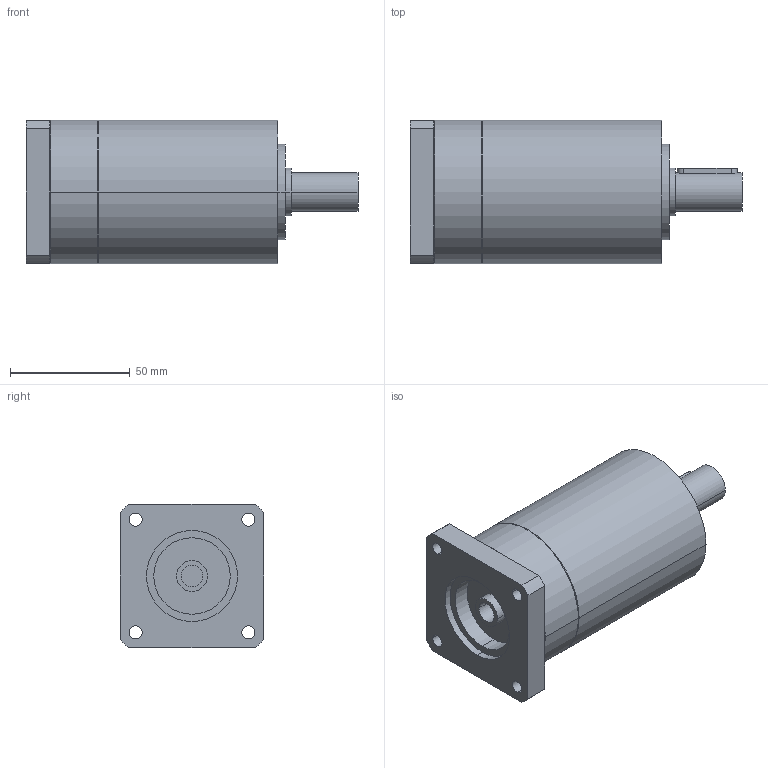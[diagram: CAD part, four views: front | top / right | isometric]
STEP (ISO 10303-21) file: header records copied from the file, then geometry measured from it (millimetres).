
FILE_DESCRIPTION(('CoCreate Modeling STEP Export'),'2;1');
FILE_NAME('GPR75_ig-9-12-16-20-24-30-36_16_B14_9_P02.stp','2014-08-25T16:07:11',(''),(''),'CoCreate Modeling STEP processor for AP214 (Solid Model)','CoCreate Modeling 16.00C 25-Feb-2009 (C) Parametric Technology GmbH','');
FILE_SCHEMA(('AUTOMOTIVE_DESIGN { 1 0 10303 214 1 1 1 1 }'));
Length unit declared in the file: millimetre
Products named in the file (2): GPR75_ig-9-12-16-20-24-30-36_16_B14_9_P02
Assembly tree (1 placements, depth 2):
  GPR75_ig-9-12-16-20-24-30-36_16_B14_9_P02
    GPR75_ig-9-12-16-20-24-30-36_16_B14_9_P02
Bounding box: 138.9 x 60 x 60 mm (x, y, z)
Volume: 303427.5 mm3; surface area: 33046.4 mm2
Topology: 1 solids, 1 shells, 86 faces, 233 edges, 161 vertices
Faces by surface type: cylinder 50, plane 30, cone 6
Entity records: 2322 total; most frequent: ORIENTED_EDGE 462, CARTESIAN_POINT 419, DIRECTION 314, EDGE_CURVE 231, VERTEX_POINT 161, AXIS2_PLACEMENT_3D 120, EDGE_LOOP 108, FACE_OUTER_BOUND 86
